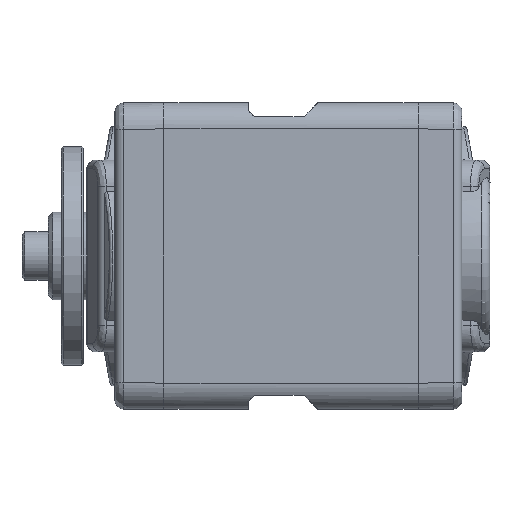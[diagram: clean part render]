
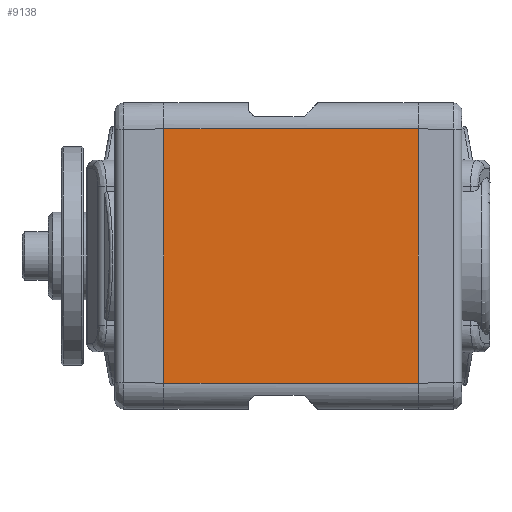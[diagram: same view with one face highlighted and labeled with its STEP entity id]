
A CAD part, left-side view. The second image highlights one B-rep face of the part: STEP entity #9138.
In plain terms, the highlighted planar face has unit normal (-1, 0, 0).
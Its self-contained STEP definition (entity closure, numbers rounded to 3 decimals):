
#2829=DIRECTION('',(0.,0.,1.));
#2830=VECTOR('',#2829,29.);
#2831=CARTESIAN_POINT('',(-13.,0.,-14.5));
#2832=LINE('',#2831,#2830);
#2837=DIRECTION('',(0.,-1.,0.));
#2838=VECTOR('',#2837,29.);
#2839=CARTESIAN_POINT('',(-13.,0.,14.5));
#2840=LINE('',#2839,#2838);
#2841=DIRECTION('',(0.,0.,1.));
#2842=VECTOR('',#2841,29.);
#2843=CARTESIAN_POINT('',(-13.,-29.,-14.5));
#2844=LINE('',#2843,#2842);
#2845=DIRECTION('',(0.,-1.,0.));
#2846=VECTOR('',#2845,29.);
#2847=CARTESIAN_POINT('',(-13.,0.,-14.5));
#2848=LINE('',#2847,#2846);
#4833=CARTESIAN_POINT('',(-13.,0.,14.5));
#4834=CARTESIAN_POINT('',(-13.,-29.,14.5));
#4835=VERTEX_POINT('',#4833);
#4836=VERTEX_POINT('',#4834);
#4837=CARTESIAN_POINT('',(-13.,0.,-14.5));
#4838=CARTESIAN_POINT('',(-13.,-29.,-14.5));
#4839=VERTEX_POINT('',#4837);
#4840=VERTEX_POINT('',#4838);
#9126=CARTESIAN_POINT('',(-13.,-37.2,-17.5));
#9127=DIRECTION('',(-1.,0.,0.));
#9128=DIRECTION('',(0.,0.,1.));
#9129=AXIS2_PLACEMENT_3D('',#9126,#9127,#9128);
#9130=PLANE('',#9129);
#9131=ORIENTED_EDGE('',*,*,#7917,.T.);
#9133=ORIENTED_EDGE('',*,*,#9132,.F.);
#9134=ORIENTED_EDGE('',*,*,#8890,.F.);
#9135=ORIENTED_EDGE('',*,*,#9120,.T.);
#9136=EDGE_LOOP('',(#9131,#9133,#9134,#9135));
#9137=FACE_OUTER_BOUND('',#9136,.F.);
#9138=ADVANCED_FACE('',(#9137),#9130,.T.);
#7917=EDGE_CURVE('',#4835,#4836,#2840,.T.);
#8890=EDGE_CURVE('',#4839,#4840,#2848,.T.);
#9120=EDGE_CURVE('',#4839,#4835,#2832,.T.);
#9132=EDGE_CURVE('',#4840,#4836,#2844,.T.);
